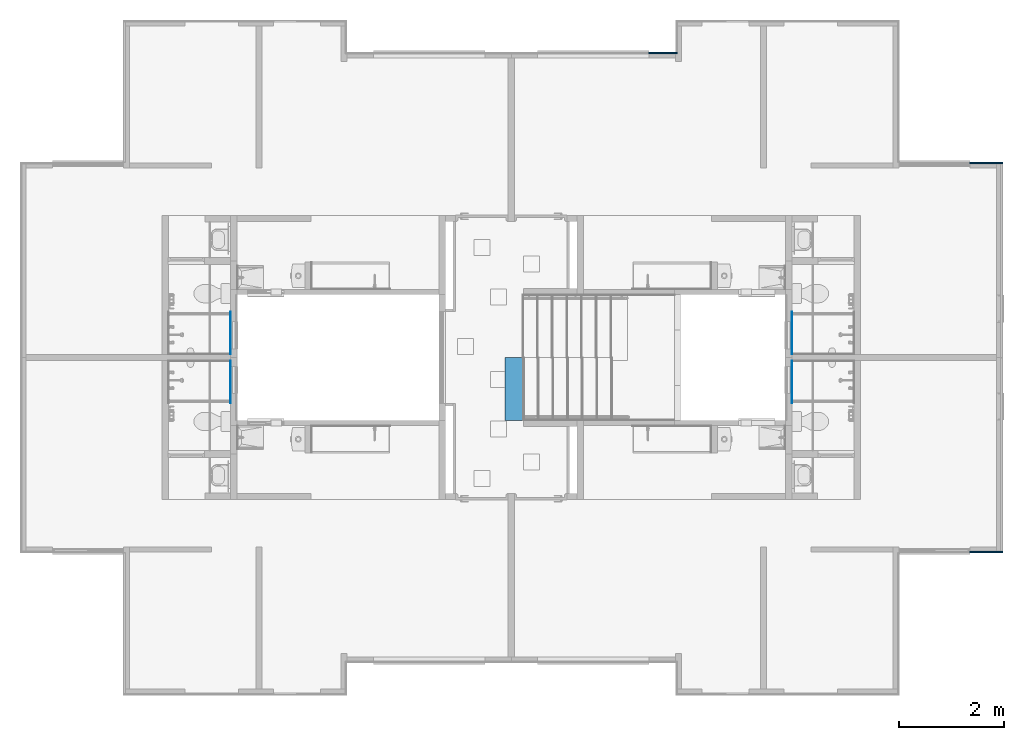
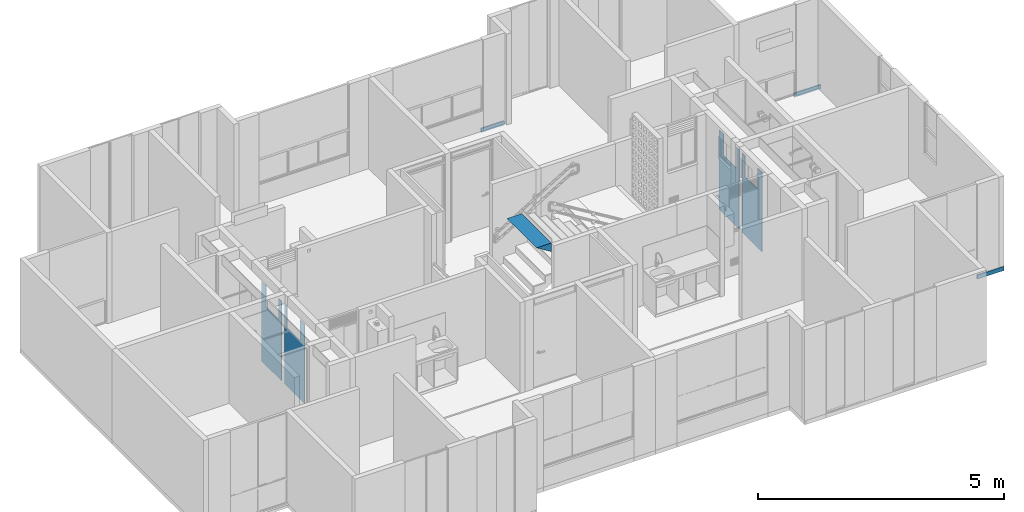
# One storey, part 28 of 48: 7 walls, 1 stair, 4 openings.
"""IFC4 building model written with IfcOpenShell, lengths in metres."""

from ifc_helpers import new_model, entity, si_unit, converted_unit, derived_unit, direction, frame, origin, place, context, subcontext, project, spatial, indexed_curve, outline, extrude, polygons, material, type_object, element, save


model = new_model("IFC4")

# Units and contexts
model_context = context("Model", 3, precision=1e-05, world=origin(), true_north=direction((6.123031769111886e-17, 1.0)))
body_context = subcontext(model_context, "Body", "Model", "MODEL_VIEW")
ifc_project = project(units=[si_unit("LENGTHUNIT", "METRE"), si_unit("AREAUNIT", "SQUARE_METRE"), si_unit("VOLUMEUNIT", "CUBIC_METRE"), converted_unit("PLANEANGLEUNIT", "DEGREE", entity("IfcRatioMeasure", 0.017453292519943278), si_unit("PLANEANGLEUNIT", "RADIAN"), dimensions=[0, 0, 0, 0, 0, 0, 0]), si_unit("MASSUNIT", "GRAM", prefix="KILO"), derived_unit("MASSDENSITYUNIT", [(si_unit("MASSUNIT", "GRAM", prefix="KILO"), 1), (si_unit("LENGTHUNIT", "METRE"), -3)]), derived_unit("IONCONCENTRATIONUNIT", [(si_unit("MASSUNIT", "GRAM", prefix="KILO"), 1), (si_unit("LENGTHUNIT", "METRE"), -3)]), derived_unit("MOMENTOFINERTIAUNIT", [(si_unit("LENGTHUNIT", "METRE"), 4)]), si_unit("TIMEUNIT", "SECOND"), si_unit("FREQUENCYUNIT", "HERTZ"), si_unit("THERMODYNAMICTEMPERATUREUNIT", "DEGREE_CELSIUS"), derived_unit("THERMALTRANSMITTANCEUNIT", [(si_unit("MASSUNIT", "GRAM", prefix="KILO"), 1), (si_unit("THERMODYNAMICTEMPERATUREUNIT", "KELVIN"), -1), (si_unit("TIMEUNIT", "SECOND"), -3)]), derived_unit("THERMALCONDUCTANCEUNIT", [(si_unit("MASSUNIT", "GRAM", prefix="KILO"), 1), (si_unit("THERMODYNAMICTEMPERATUREUNIT", "KELVIN"), -1), (si_unit("TIMEUNIT", "SECOND"), -3), (si_unit("LENGTHUNIT", "METRE"), 1)]), derived_unit("VOLUMETRICFLOWRATEUNIT", [(si_unit("LENGTHUNIT", "METRE"), 3), (si_unit("TIMEUNIT", "SECOND"), -1)]), derived_unit("MASSFLOWRATEUNIT", [(si_unit("MASSUNIT", "GRAM", prefix="KILO"), 1), (si_unit("TIMEUNIT", "SECOND"), -1)]), derived_unit("ROTATIONALFREQUENCYUNIT", [(si_unit("TIMEUNIT", "SECOND"), -1)]), si_unit("ELECTRICCURRENTUNIT", "AMPERE"), si_unit("ELECTRICVOLTAGEUNIT", "VOLT"), si_unit("POWERUNIT", "WATT"), si_unit("FORCEUNIT", "NEWTON", prefix="KILO"), si_unit("ILLUMINANCEUNIT", "LUX"), si_unit("LUMINOUSFLUXUNIT", "LUMEN"), si_unit("LUMINOUSINTENSITYUNIT", "CANDELA"), derived_unit("USERDEFINED", [(si_unit("MASSUNIT", "GRAM", prefix="KILO"), -1), (si_unit("LENGTHUNIT", "METRE"), -2), (si_unit("TIMEUNIT", "SECOND"), 3), (si_unit("LUMINOUSFLUXUNIT", "LUMEN"), 1)]), derived_unit("USERDEFINED", [(si_unit("MASSUNIT", "GRAM", prefix="KILO"), 1), (si_unit("TIMEUNIT", "SECOND"), -3), (si_unit("LENGTHUNIT", "METRE"), 3), (si_unit("ELECTRICCURRENTUNIT", "AMPERE"), -2)]), derived_unit("SOUNDPOWERUNIT", [(si_unit("MASSUNIT", "GRAM", prefix="KILO"), 1), (si_unit("TIMEUNIT", "SECOND"), -3), (si_unit("LENGTHUNIT", "METRE"), 2)]), derived_unit("SOUNDPRESSUREUNIT", [(si_unit("MASSUNIT", "GRAM", prefix="KILO"), 1), (si_unit("LENGTHUNIT", "METRE"), -1), (si_unit("TIMEUNIT", "SECOND"), -2)]), derived_unit("LINEARVELOCITYUNIT", [(si_unit("LENGTHUNIT", "METRE"), 1), (si_unit("TIMEUNIT", "SECOND"), -1)]), si_unit("PRESSUREUNIT", "PASCAL"), derived_unit("USERDEFINED", [(si_unit("MASSUNIT", "GRAM", prefix="KILO"), 1), (si_unit("LENGTHUNIT", "METRE"), -2), (si_unit("TIMEUNIT", "SECOND"), -2)]), derived_unit("LINEARFORCEUNIT", [(si_unit("MASSUNIT", "GRAM", prefix="KILO"), 1), (si_unit("TIMEUNIT", "SECOND"), -2)]), derived_unit("PLANARFORCEUNIT", [(si_unit("MASSUNIT", "GRAM", prefix="KILO"), 1), (si_unit("LENGTHUNIT", "METRE"), -1), (si_unit("TIMEUNIT", "SECOND"), -2)]), derived_unit("SPECIFICHEATCAPACITYUNIT", [(si_unit("THERMODYNAMICTEMPERATUREUNIT", "KELVIN"), -1), (si_unit("LENGTHUNIT", "METRE"), 2), (si_unit("TIMEUNIT", "SECOND"), -2)]), derived_unit("HEATINGVALUEUNIT", [(si_unit("LENGTHUNIT", "METRE"), 2), (si_unit("TIMEUNIT", "SECOND"), -2)]), derived_unit("VAPORPERMEABILITYUNIT", [(si_unit("LENGTHUNIT", "METRE"), -1), (si_unit("TIMEUNIT", "SECOND"), 1)]), derived_unit("DYNAMICVISCOSITYUNIT", [(si_unit("MASSUNIT", "GRAM", prefix="KILO"), 1), (si_unit("TIMEUNIT", "SECOND"), -1), (si_unit("LENGTHUNIT", "METRE"), -1)]), derived_unit("THERMALEXPANSIONCOEFFICIENTUNIT", [(si_unit("THERMODYNAMICTEMPERATUREUNIT", "KELVIN"), -1)]), derived_unit("MODULUSOFELASTICITYUNIT", [(si_unit("MASSUNIT", "GRAM", prefix="KILO"), 1), (si_unit("LENGTHUNIT", "METRE"), -1), (si_unit("TIMEUNIT", "SECOND"), -2)]), derived_unit("ISOTHERMALMOISTURECAPACITYUNIT", [(si_unit("LENGTHUNIT", "METRE"), 3), (si_unit("MASSUNIT", "GRAM", prefix="KILO"), -1)]), derived_unit("MOISTUREDIFFUSIVITYUNIT", [(si_unit("TIMEUNIT", "SECOND"), -1), (si_unit("LENGTHUNIT", "METRE"), 2)])], contexts=[model_context])

# Site, building, storey
site_placement = place(None, origin())
site = spatial("IfcSite", under=ifc_project, at=site_placement, Name="Default", CompositionType="ELEMENT")
building_placement = place(site_placement, origin())
building = spatial("IfcBuilding", under=site, at=building_placement, CompositionType="ELEMENT")
storey_placement = place(building_placement, frame((0.0, 0.0, 9.40000000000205)))
storey = spatial("IfcBuildingStorey", under=building, at=storey_placement, Name="Nivel 5", CompositionType="ELEMENT", Elevation=9.40000000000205)

# Wall, opening
ifc_material_1 = material(Name="Ceramica 0.25m x 0.35m", Category="Materials")
wall_type_1 = type_object("IfcWallType", Name="Basic Wall:C2010 - 0.25 x 0.35 - Enchape cerámico", PredefinedType="STANDARD")
wall_1_placement = place(storey_placement, frame((3.9574999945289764, -6.365000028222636, 0.029999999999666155), z_axis=(0.0, 0.0, 1.0), x_axis=(0.0, 1.0, 0.0)))
wall_1 = element("IfcWall", 1, at=wall_1_placement, inside=storey, type_object=wall_type_1, material=ifc_material_1, Name="Basic Wall:C2010 - 0.25 x 0.35 - Enchape cerámico", ObjectType="Basic Wall:C2010 - 0.25 x 0.35 - Enchape cerámico", PredefinedType="NOTDEFINED", context=body_context, shape_type="Tessellation", body=[
    polygons([(0.0, -0.0049999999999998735, -1.0828671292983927e-15), (0.8099999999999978, -0.00499999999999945, -1.0828671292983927e-15), (0.8099999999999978, -0.00499999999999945, 1.9699999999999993), (0.6309543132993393, -0.00500000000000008, 1.9699999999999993), (0.6309543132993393, -0.00500000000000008, 1.4500000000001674), (0.11095431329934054, -0.00499999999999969, 1.4500000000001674), (0.11095431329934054, -0.00499999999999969, 1.9699999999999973), (0.0, -0.0049999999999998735, 1.9699999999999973), (0.0, 0.005000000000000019, -1.0828671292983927e-15), (0.0, 0.005000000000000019, 1.9699999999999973), (0.009999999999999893, 0.005000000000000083, 1.9699999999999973), (0.11095431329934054, 0.005000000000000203, 1.9699999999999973), (0.11095431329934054, 0.005000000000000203, 1.4500000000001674), (0.6309543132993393, 0.004999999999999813, 1.4500000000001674), (0.6309543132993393, 0.004999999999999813, 1.9699999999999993), (0.8099999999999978, 0.004999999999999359, 1.9699999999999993), (0.8099999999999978, 0.004999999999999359, -1.0828671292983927e-15), (0.009999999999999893, 0.005000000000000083, -1.0828671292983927e-15)], [[[1, 2, 3, 4, 5, 6, 7, 8]], [[9, 10, 11, 12, 13, 14, 15, 16, 17, 18]], [[2, 1, 9, 18, 17]], [[3, 2, 17, 16]], [[4, 3, 16, 15]], [[5, 4, 15, 14]], [[6, 5, 14, 13]], [[7, 6, 13, 12]], [[8, 7, 12, 11, 10]], [[1, 8, 10, 9]]], closed=True),
])
opening_1_placement = place(wall_1_placement, origin())
element("IfcOpeningElement", 2, at=opening_1_placement, cuts=wall_1, Name="Basic Wall:C2010 - 0.25 x 0.35 - Enchape cerámico", PredefinedType="OPENING", context=body_context, shape_type="SweptSolid", body=[
    extrude(outline(indexed_curve([(-0.26000000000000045, -0.25999999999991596), (0.2599999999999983, -0.25999999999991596), (0.26000000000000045, 0.2599999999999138), (-0.2599999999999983, 0.25999999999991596), (-0.26000000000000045, -0.25999999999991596)], self_intersect=False)), frame((0.3709543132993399, 0.004999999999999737, 1.7100000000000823), z_axis=(0.0, -1.0, 0.0), x_axis=(-1.0, 0.0, 0.0)), (0.0, 0.0, 1.0), 0.01),
])

wall_2_placement = place(storey_placement, frame((3.957499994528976, -6.485000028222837, 0.029999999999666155), z_axis=(0.0, 0.0, 1.0), x_axis=(0.0, -1.0, 0.0)))
wall_2 = element("IfcWall", 3, at=wall_2_placement, inside=storey, type_object=wall_type_1, material=ifc_material_1, Name="Basic Wall:C2010 - 0.25 x 0.35 - Enchape cerámico", ObjectType="Basic Wall:C2010 - 0.25 x 0.35 - Enchape cerámico", PredefinedType="NOTDEFINED", context=body_context, shape_type="Tessellation", body=[
    polygons([(0.0, -0.0049999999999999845, 0.0), (0.009999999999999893, -0.004999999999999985, 1.0828671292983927e-15), (0.8099999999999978, -0.005000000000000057, 0.0), (0.8099999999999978, -0.005000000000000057, 1.9700000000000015), (0.6309543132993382, -0.00500000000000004, 1.9700000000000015), (0.6309543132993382, -0.00500000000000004, 1.4500000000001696), (0.11095431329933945, -0.004999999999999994, 1.4500000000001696), (0.11095431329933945, -0.004999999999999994, 1.9699999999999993), (0.009999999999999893, -0.004999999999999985, 1.9699999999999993), (0.0, -0.0049999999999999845, 1.9699999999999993), (0.0, 0.004999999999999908, 0.0), (0.0, 0.004999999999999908, 1.9699999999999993), (0.11095431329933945, 0.004999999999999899, 1.9699999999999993), (0.11095431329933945, 0.004999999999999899, 1.4500000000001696), (0.6309543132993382, 0.004999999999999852, 1.4500000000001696), (0.6309543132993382, 0.004999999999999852, 1.9700000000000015), (0.8099999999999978, 0.004999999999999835, 1.9700000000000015), (0.8099999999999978, 0.004999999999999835, 0.0)], [[[1, 2, 3, 4, 5, 6, 7, 8, 9, 10]], [[11, 12, 13, 14, 15, 16, 17, 18]], [[3, 2, 1, 11, 18]], [[4, 3, 18, 17]], [[5, 4, 17, 16]], [[6, 5, 16, 15]], [[7, 6, 15, 14]], [[8, 7, 14, 13]], [[10, 9, 8, 13, 12]], [[1, 10, 12, 11]]], closed=True),
])
opening_2_placement = place(wall_2_placement, origin())
element("IfcOpeningElement", 4, at=opening_2_placement, cuts=wall_2, Name="Basic Wall:C2010 - 0.25 x 0.35 - Enchape cerámico", PredefinedType="OPENING", context=body_context, shape_type="SweptSolid", body=[
    extrude(outline(indexed_curve([(-0.26000000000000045, -0.25999999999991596), (0.2599999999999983, -0.25999999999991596), (0.26000000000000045, 0.2599999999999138), (-0.2599999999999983, 0.25999999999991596), (-0.26000000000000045, -0.25999999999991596)], self_intersect=False)), frame((0.3709543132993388, 0.004999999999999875, 1.7100000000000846), z_axis=(0.0, -1.0, 0.0), x_axis=(-1.0, 0.0, 0.0)), (0.0, 0.0, 1.0), 0.01),
])

wall_3_placement = place(storey_placement, frame((14.687500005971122, -6.3650000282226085, 0.029999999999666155), z_axis=(0.0, 0.0, 1.0), x_axis=(0.0, 1.0, 0.0)))
wall_3 = element("IfcWall", 5, at=wall_3_placement, inside=storey, type_object=wall_type_1, material=ifc_material_1, Name="Basic Wall:C2010 - 0.25 x 0.35 - Enchape cerámico", ObjectType="Basic Wall:C2010 - 0.25 x 0.35 - Enchape cerámico", PredefinedType="NOTDEFINED", context=body_context, shape_type="Tessellation", body=[
    polygons([(0.0, -0.004999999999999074, -1.0828671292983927e-15), (0.009999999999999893, -0.004999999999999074, -1.0828671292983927e-15), (0.8099999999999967, -0.004999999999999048, -1.0828671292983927e-15), (0.8099999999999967, -0.004999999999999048, 1.9699999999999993), (0.6309543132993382, -0.004999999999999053, 1.9699999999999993), (0.6309543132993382, -0.004999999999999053, 1.4500000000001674), (0.11095431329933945, -0.00499999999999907, 1.4500000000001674), (0.11095431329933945, -0.00499999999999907, 1.9699999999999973), (0.009999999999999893, -0.004999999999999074, 1.9699999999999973), (0.0, -0.004999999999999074, 1.9699999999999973), (0.0, 0.004999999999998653, -1.0828671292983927e-15), (0.0, 0.004999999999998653, 1.9699999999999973), (0.11095431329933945, 0.004999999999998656, 1.9699999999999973), (0.11095431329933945, 0.004999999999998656, 1.4500000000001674), (0.6309543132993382, 0.004999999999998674, 1.4500000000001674), (0.6309543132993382, 0.004999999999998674, 1.9699999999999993), (0.8099999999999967, 0.004999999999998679, 1.9699999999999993), (0.8099999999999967, 0.004999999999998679, -1.0828671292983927e-15)], [[[1, 2, 3, 4, 5, 6, 7, 8, 9, 10]], [[11, 12, 13, 14, 15, 16, 17, 18]], [[3, 2, 1, 11, 18]], [[4, 3, 18, 17]], [[5, 4, 17, 16]], [[6, 5, 16, 15]], [[7, 6, 15, 14]], [[8, 7, 14, 13]], [[10, 9, 8, 13, 12]], [[1, 10, 12, 11]]], closed=True),
])
opening_3_placement = place(wall_3_placement, origin())
element("IfcOpeningElement", 6, at=opening_3_placement, cuts=wall_3, Name="Basic Wall:C2010 - 0.25 x 0.35 - Enchape cerámico", PredefinedType="OPENING", context=body_context, shape_type="SweptSolid", body=[
    extrude(outline(indexed_curve([(-0.26000000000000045, -0.25999999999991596), (0.2599999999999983, -0.25999999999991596), (0.26000000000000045, 0.2599999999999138), (-0.2599999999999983, 0.25999999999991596), (-0.26000000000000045, -0.25999999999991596)], self_intersect=False)), frame((0.3709543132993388, 0.00500000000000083, 1.7100000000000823), z_axis=(0.0, -1.0, 0.0), x_axis=(-1.0, 0.0, 0.0)), (0.0, 0.0, 1.0), 0.01),
])

wall_4_placement = place(storey_placement, frame((14.687500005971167, -6.485000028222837, 0.029999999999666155), z_axis=(0.0, 0.0, 1.0), x_axis=(0.0, -1.0, 0.0)))
wall_4 = element("IfcWall", 7, at=wall_4_placement, inside=storey, type_object=wall_type_1, material=ifc_material_1, Name="Basic Wall:C2010 - 0.25 x 0.35 - Enchape cerámico", ObjectType="Basic Wall:C2010 - 0.25 x 0.35 - Enchape cerámico", PredefinedType="NOTDEFINED", context=body_context, shape_type="Tessellation", body=[
    polygons([(0.0, -0.004999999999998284, 0.0), (0.8099999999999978, -0.004999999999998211, 0.0), (0.8099999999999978, -0.004999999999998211, 1.9700000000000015), (0.6309543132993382, -0.004999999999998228, 1.9700000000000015), (0.6309543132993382, -0.004999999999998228, 1.4500000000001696), (0.11095431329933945, -0.004999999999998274, 1.4500000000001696), (0.11095431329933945, -0.004999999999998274, 1.9699999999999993), (0.0, -0.004999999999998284, 1.9699999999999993), (0.0, 0.005000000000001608, 0.0), (0.0, 0.005000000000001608, 1.9699999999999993), (0.009999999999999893, 0.00500000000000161, 1.9699999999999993), (0.11095431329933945, 0.005000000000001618, 1.9699999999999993), (0.11095431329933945, 0.005000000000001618, 1.4500000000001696), (0.6309543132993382, 0.005000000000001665, 1.4500000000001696), (0.6309543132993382, 0.005000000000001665, 1.9700000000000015), (0.8099999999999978, 0.005000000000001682, 1.9700000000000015), (0.8099999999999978, 0.005000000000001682, 0.0), (0.009999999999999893, 0.00500000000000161, 1.0828671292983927e-15)], [[[1, 2, 3, 4, 5, 6, 7, 8]], [[9, 10, 11, 12, 13, 14, 15, 16, 17, 18]], [[2, 1, 9, 18, 17]], [[3, 2, 17, 16]], [[4, 3, 16, 15]], [[5, 4, 15, 14]], [[6, 5, 14, 13]], [[7, 6, 13, 12]], [[8, 7, 12, 11, 10]], [[1, 8, 10, 9]]], closed=True),
])
opening_4_placement = place(wall_4_placement, origin())
element("IfcOpeningElement", 8, at=opening_4_placement, cuts=wall_4, Name="Basic Wall:C2010 - 0.25 x 0.35 - Enchape cerámico", PredefinedType="OPENING", context=body_context, shape_type="SweptSolid", body=[
    extrude(outline(indexed_curve([(-0.26000000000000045, -0.25999999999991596), (0.2599999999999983, -0.25999999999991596), (0.26000000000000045, 0.2599999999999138), (-0.2599999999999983, 0.25999999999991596), (-0.26000000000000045, -0.25999999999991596)], self_intersect=False)), frame((0.3709543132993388, 0.005000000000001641, 1.7100000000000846), z_axis=(0.0, -1.0, 0.0), x_axis=(-1.0, 0.0, 0.0)), (0.0, 0.0, 1.0), 0.01),
])

# Walls
ifc_material_2 = material(Name="LADRILLO CLARO", Category="Materials")
wall_type_2 = type_object("IfcWallType", Name="Basic Wall:B2010 - 0.03m - ME enchape  no estructural - Ladrillo", PredefinedType="STANDARD")
wall_5_placement = place(storey_placement, frame((18.702500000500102, -2.710000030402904, -0.10000000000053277), z_axis=(0.0, 0.0, 1.0), x_axis=(-1.0, 0.0, 0.0)))
element("IfcWall", 9, at=wall_5_placement, inside=storey, type_object=wall_type_2, material=ifc_material_2, Name="Basic Wall:B2010 - 0.03m - ME enchape  no estructural - Ladrillo", ObjectType="Basic Wall:B2010 - 0.03m - ME enchape  no estructural - Ladrillo", PredefinedType="NOTDEFINED", context=body_context, shape_type="SweptSolid", body=[
    extrude(outline(indexed_curve([(0.624999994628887, 0.014999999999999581), (3.050576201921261e-16, 0.014999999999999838), (-3.050576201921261e-16, -0.014999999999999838), (0.6249999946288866, -0.015000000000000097), (0.624999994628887, 0.014999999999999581)], self_intersect=False)), origin(), (0.0, 0.0, 1.0), 0.09999999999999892),
])
wall_6_placement = place(storey_placement, frame((18.702500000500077, -10.140000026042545, -0.10000000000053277), z_axis=(0.0, 0.0, 1.0), x_axis=(-1.0, 0.0, 0.0)))
element("IfcWall", 10, at=wall_6_placement, inside=storey, type_object=wall_type_2, material=ifc_material_2, Name="Basic Wall:B2010 - 0.03m - ME enchape  no estructural - Ladrillo", ObjectType="Basic Wall:B2010 - 0.03m - ME enchape  no estructural - Ladrillo", PredefinedType="NOTDEFINED", context=body_context, shape_type="SweptSolid", body=[
    extrude(outline(indexed_curve([(0.6249999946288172, 0.015000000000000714), (-3.068945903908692e-16, 0.015000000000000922), (3.068945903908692e-16, -0.015000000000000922), (0.6249999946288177, -0.015000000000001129), (0.6249999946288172, 0.015000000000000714)], self_intersect=False)), origin(), (0.0, 0.0, 1.0), 0.09999999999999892),
])
wall_7_placement = place(storey_placement, frame((11.952500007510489, -0.6100000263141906, -0.1000000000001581)))
element("IfcWall", 11, at=wall_7_placement, inside=storey, type_object=wall_type_2, material=ifc_material_2, Name="Basic Wall:B2010 - 0.03m - ME enchape  no estructural - Ladrillo", ObjectType="Basic Wall:B2010 - 0.03m - ME enchape  no estructural - Ladrillo", PredefinedType="NOTDEFINED", context=body_context, shape_type="SweptSolid", body=[
    extrude(outline(indexed_curve([(0.5400000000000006, 0.014999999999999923), (-4.746061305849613e-17, 0.014999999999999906), (4.7460613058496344e-17, -0.014999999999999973), (0.5400000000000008, -0.015000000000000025), (0.5400000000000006, 0.014999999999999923)], self_intersect=False)), origin(), (0.0, 0.0, 1.0), 0.09999999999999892),
])

# Stair
ifc_material_3 = material(Name="Concreto (Aire)", Category="Materials")
stair_type = type_object("IfcStairType", Name="ESCALON5:ESCALON", PredefinedType="NOTDEFINED")
stair_placement = place(storey_placement, origin())
element("IfcStair", 12, at=stair_placement, inside=storey, type_object=stair_type, material=ifc_material_3, Name="ESCALON5:ESCALON", ObjectType="ESCALON5:ESCALON", PredefinedType="NOTDEFINED", context=body_context, shape_type="SweptSolid", body=[
    extrude(outline(indexed_curve([(-0.070128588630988, -0.1155059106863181), (0.1402571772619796, -0.1155059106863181), (-0.07012858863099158, 0.2310118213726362), (-0.070128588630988, -0.1155059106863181)], self_intersect=False)), frame((9.436994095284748, -7.625000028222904, 2.17987141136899), z_axis=(0.0, 1.0, 0.0), x_axis=(0.0, 0.0, -1.0)), (0.0, 0.0, 1.0), 1.200000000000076),
])

save(model, "model.ifc")
